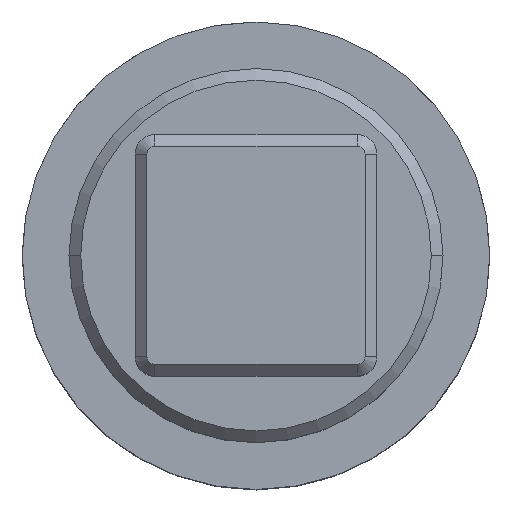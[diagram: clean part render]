
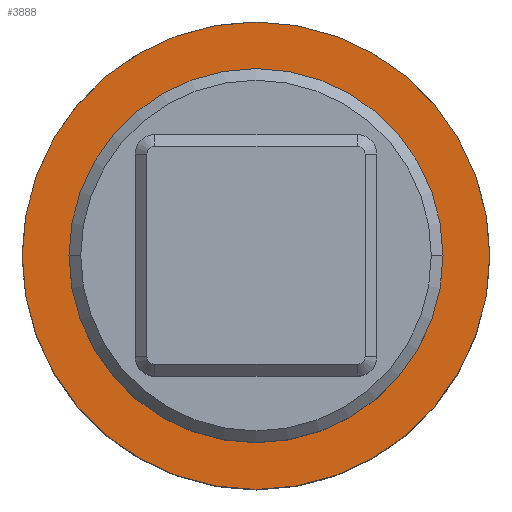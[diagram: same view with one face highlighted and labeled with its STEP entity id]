
A CAD part, top view. The second image highlights one B-rep face of the part: STEP entity #3888.
In plain terms, the highlighted planar face has unit normal (0, 0, 1).
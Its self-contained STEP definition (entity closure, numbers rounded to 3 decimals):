
#190 = ORIENTED_EDGE ( 'NONE', *, *, #1752, .F. ) ;
#970 = CIRCLE ( 'NONE', #36628, 4.8 ) ;
#1613 = ORIENTED_EDGE ( 'NONE', *, *, #19252, .F. ) ;
#1752 = EDGE_CURVE ( 'NONE', #15213, #33370, #14754, .T. ) ;
#2633 = DIRECTION ( 'NONE',  ( 0., 0., 1. ) ) ;
#3888 = ADVANCED_FACE ( 'NONE', ( #13883, #28415 ), #20281, .T. ) ;
#4388 = DIRECTION ( 'NONE',  ( 0., 0., 1. ) ) ;
#6470 = AXIS2_PLACEMENT_3D ( 'NONE', #31771, #25599, #31656 ) ;
#6860 = EDGE_CURVE ( 'NONE', #33370, #15213, #33477, .T. ) ;
#7439 = DIRECTION ( 'NONE',  ( 0., 0., -1. ) ) ;
#7561 = DIRECTION ( 'NONE',  ( -1., 0., 0. ) ) ;
#8413 = EDGE_LOOP ( 'NONE', ( #1613, #34337 ) ) ;
#9372 = ORIENTED_EDGE ( 'NONE', *, *, #6860, .F. ) ;
#10347 = CARTESIAN_POINT ( 'NONE',  ( 0., 0., 3.5 ) ) ;
#11511 = CARTESIAN_POINT ( 'NONE',  ( 4.8, 0., 3.5 ) ) ;
#11710 = VERTEX_POINT ( 'NONE', #25504 ) ;
#12912 = CARTESIAN_POINT ( 'NONE',  ( 6., 0., 3.5 ) ) ;
#13883 = FACE_BOUND ( 'NONE', #8413, .T. ) ;
#14155 = AXIS2_PLACEMENT_3D ( 'NONE', #36382, #7439, #7561 ) ;
#14754 = CIRCLE ( 'NONE', #14155, 6. ) ;
#15213 = VERTEX_POINT ( 'NONE', #12912 ) ;
#15953 = DIRECTION ( 'NONE',  ( 1., 0., 0. ) ) ;
#17093 = CARTESIAN_POINT ( 'NONE',  ( 0., 0., 3.5 ) ) ;
#19252 = EDGE_CURVE ( 'NONE', #11710, #21123, #970, .T. ) ;
#19778 = EDGE_LOOP ( 'NONE', ( #9372, #190 ) ) ;
#20281 = PLANE ( 'NONE',  #28504 ) ;
#20400 = CARTESIAN_POINT ( 'NONE',  ( 0., 0., 3.5 ) ) ;
#21123 = VERTEX_POINT ( 'NONE', #11511 ) ;
#24630 = AXIS2_PLACEMENT_3D ( 'NONE', #17093, #37373, #33962 ) ;
#25319 = CARTESIAN_POINT ( 'NONE',  ( -6., 0., 3.5 ) ) ;
#25504 = CARTESIAN_POINT ( 'NONE',  ( -4.8, 0., 3.5 ) ) ;
#25599 = DIRECTION ( 'NONE',  ( 0., 0., 1. ) ) ;
#25989 = DIRECTION ( 'NONE',  ( 1., 0., 0. ) ) ;
#28415 = FACE_OUTER_BOUND ( 'NONE', #19778, .T. ) ;
#28504 = AXIS2_PLACEMENT_3D ( 'NONE', #20400, #2633, #25989 ) ;
#28976 = EDGE_CURVE ( 'NONE', #21123, #11710, #32563, .T. ) ;
#31656 = DIRECTION ( 'NONE',  ( 1., 0., 0. ) ) ;
#31771 = CARTESIAN_POINT ( 'NONE',  ( 0., 0., 3.5 ) ) ;
#32563 = CIRCLE ( 'NONE', #6470, 4.8 ) ;
#33370 = VERTEX_POINT ( 'NONE', #25319 ) ;
#33477 = CIRCLE ( 'NONE', #24630, 6. ) ;
#33962 = DIRECTION ( 'NONE',  ( -1., 0., 0. ) ) ;
#34337 = ORIENTED_EDGE ( 'NONE', *, *, #28976, .F. ) ;
#36382 = CARTESIAN_POINT ( 'NONE',  ( 0., 0., 3.5 ) ) ;
#36628 = AXIS2_PLACEMENT_3D ( 'NONE', #10347, #4388, #15953 ) ;
#37373 = DIRECTION ( 'NONE',  ( 0., 0., -1. ) ) ;
